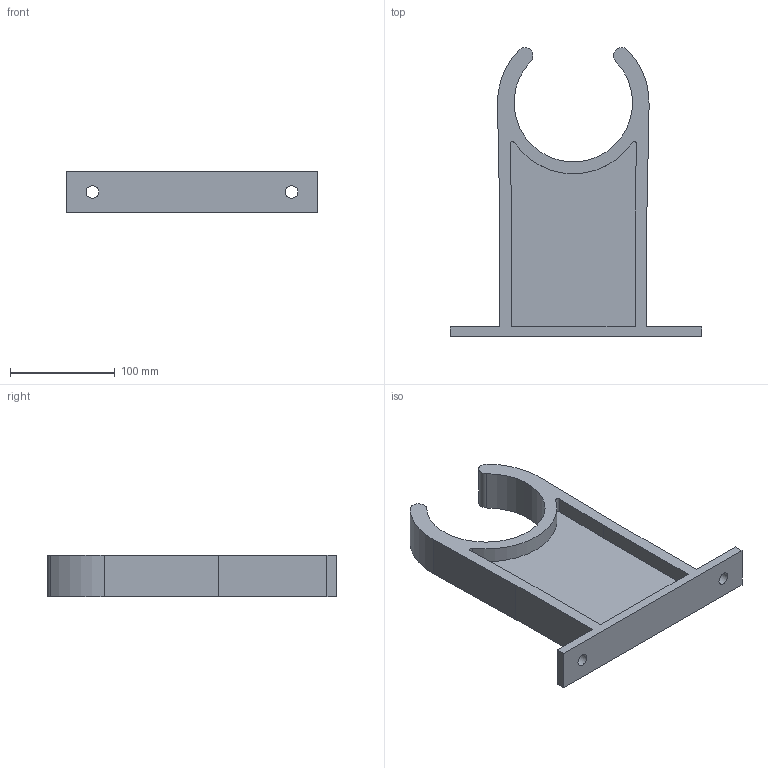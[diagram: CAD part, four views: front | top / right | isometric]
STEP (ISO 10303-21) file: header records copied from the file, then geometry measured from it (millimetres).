
FILE_DESCRIPTION(/* description */ (''),/* implementation_level */ '2;1');
FILE_NAME(/* name */ 'clamp 22.stp',/* time_stamp */ '2026-07-13T09:12:09+03:00',/* author */ ('USER'),/* organization */ (''),/* preprocessor_version */ 'ST-DEVELOPER v20',/* originating_system */ 'Autodesk Inventor 2025',/* authorisation */ '');
FILE_SCHEMA (('AUTOMOTIVE_DESIGN { 1 0 10303 214 3 1 1 }'));
Length unit declared in the file: millimetre
Products named in the file (1): clamp 22
Bounding box: 240 x 275.19 x 40 mm (x, y, z)
Volume: 607606.5 mm3; surface area: 125064.7 mm2
Topology: 1 solids, 1 shells, 36 faces, 96 edges, 64 vertices
Faces by surface type: plane 23, cylinder 13
Full cylindrical faces by diameter (mm): 12 x2
Entity records: 1177 total; most frequent: CARTESIAN_POINT 197, DIRECTION 196, ORIENTED_EDGE 192, EDGE_CURVE 96, LINE 70, VECTOR 70, VERTEX_POINT 64, AXIS2_PLACEMENT_3D 63
